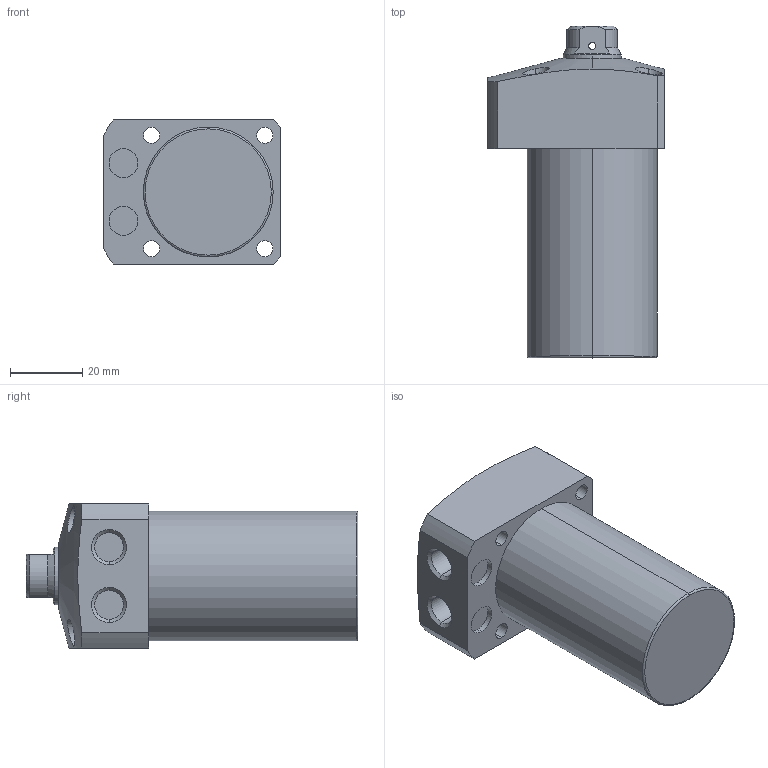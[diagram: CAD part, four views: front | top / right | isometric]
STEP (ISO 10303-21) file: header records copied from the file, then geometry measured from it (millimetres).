
FILE_DESCRIPTION (( 'STEP AP203' ), '1' );
FILE_NAME ('CLL-036CB-050.STEP', '2020-01-03T12:31:57', ( '' ), ( '' ), 'SwSTEP 2.0', 'SolidWorks 2015', '' );
FILE_SCHEMA (( 'CONFIG_CONTROL_DESIGN' ));
Length unit declared in the file: millimetre
Products named in the file (1): CLL-036CB-050
Bounding box: 49 x 92 x 40 mm (x, y, z)
Volume: 100457 mm3; surface area: 16767.7 mm2
Topology: 1 solids, 1 shells, 76 faces, 184 edges, 117 vertices
Faces by surface type: cylinder 38, plane 22, cone 14, torus 2
Entity records: 2699 total; most frequent: CARTESIAN_POINT 814, DIRECTION 386, ORIENTED_EDGE 364, EDGE_CURVE 182, AXIS2_PLACEMENT_3D 159, VERTEX_POINT 117, EDGE_LOOP 97, CIRCLE 82
